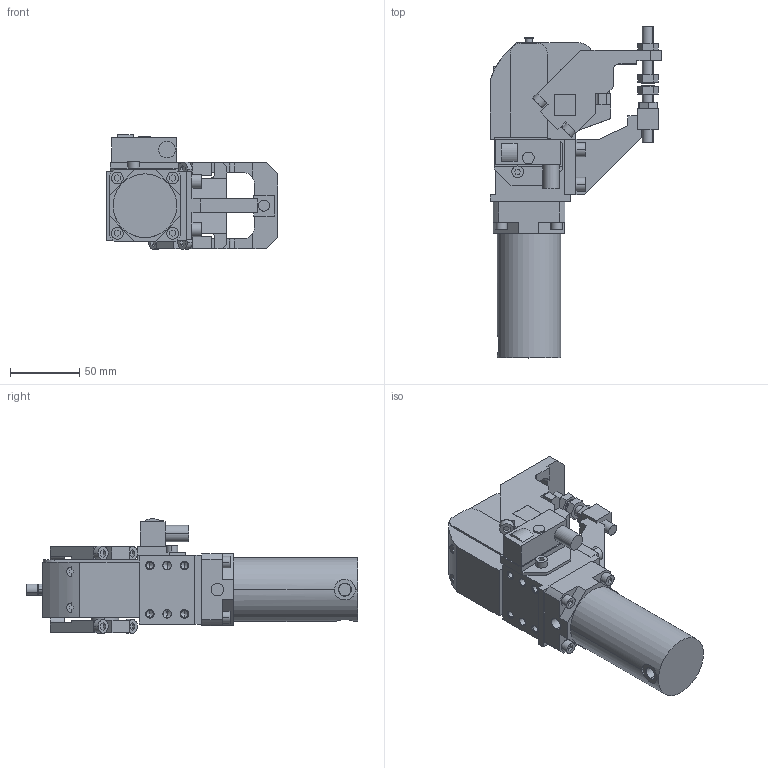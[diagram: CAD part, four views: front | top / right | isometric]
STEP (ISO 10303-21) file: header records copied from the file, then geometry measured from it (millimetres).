
FILE_DESCRIPTION (( 'STEP AP214' ), '1' );
FILE_NAME ('g40.1_g1_1__a.STEP', '2014-03-17T09:50:08', ( 'vep' ), ( 'TOSHIBA' ), 'SwSTEP 2.0', 'SolidWorks 2013', '' );
FILE_SCHEMA (( 'AUTOMOTIVE_DESIGN' ));
Length unit declared in the file: millimetre
Products named in the file (8): dado_basso_m8_din936_1_154; g40.1_g1_1__a; piedino_zigrinato_M8x35_3_329; g40.1_leva_g1; blocchetto_p&f_90; g40.1_cilindro; g40.1_corpo; g40.1_supporto_g1_1
Assembly tree (9 placements, depth 2):
  g40.1_g1_1__a
    g40.1_corpo
    g40.1_cilindro
    blocchetto_p&f_90
    g40.1_leva_g1
    piedino_zigrinato_M8x35_3_329  x2
    dado_basso_m8_din936_1_154  x2
    g40.1_supporto_g1_1
Bounding box: 124 x 240 x 82.8 mm (x, y, z)
Volume: 633597.3 mm3; surface area: 106007.8 mm2
Topology: 10 solids, 10 shells, 778 faces, 1876 edges, 1185 vertices
Faces by surface type: plane 559, cylinder 167, cone 52
Entity records: 19898 total; most frequent: CARTESIAN_POINT 3566, DIRECTION 3144, ORIENTED_EDGE 3104, EDGE_CURVE 1552, VECTOR 1152, LINE 1152, AXIS2_PLACEMENT_3D 996, VERTEX_POINT 992
